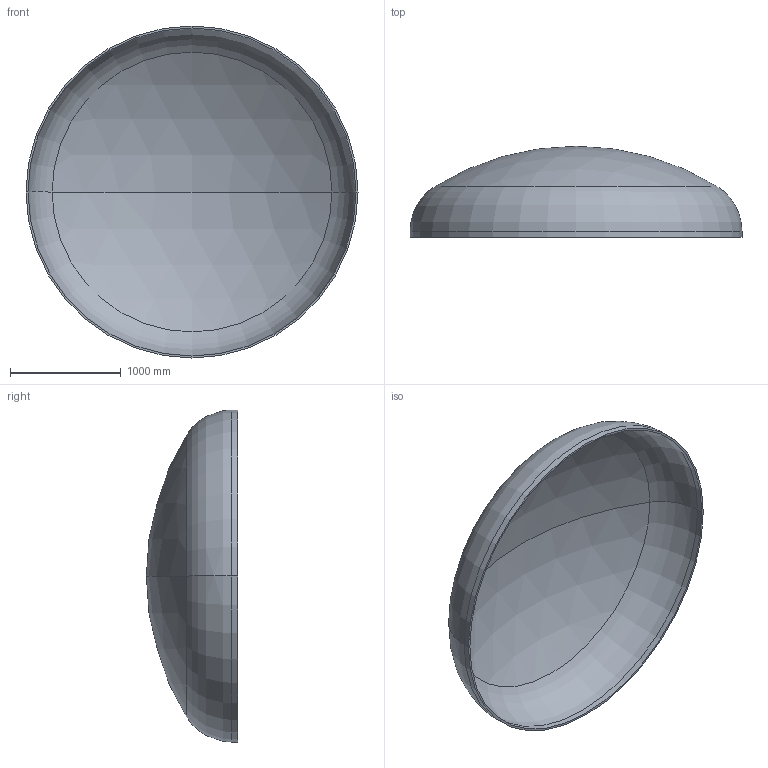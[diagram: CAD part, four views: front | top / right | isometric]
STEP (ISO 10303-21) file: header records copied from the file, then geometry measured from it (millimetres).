
FILE_DESCRIPTION (( 'STEP AP203' ), '1' );
FILE_NAME ('DIN 28013 Korbbogenform_-_Boden DIN 28013 - 3000 x 55 - I - s=18.step', '2016-07-01T17:33:01', ( '' ), ( '' ), 'SwSTEP 2.0', 'SolidWorks 2013', '' );
FILE_SCHEMA (( 'CONFIG_CONTROL_DESIGN' ));
Length unit declared in the file: millimetre
Products named in the file (1): DIN 28013 Korbbogenform_-_Boden DIN 28013 - 3000 x 55 - I - s=18
Bounding box: 3000 x 824.03 x 3000 mm (x, y, z)
Volume: 183956468 mm3; surface area: 20608906.3 mm2
Topology: 1 solids, 1 shells, 13 faces, 24 edges, 14 vertices
Faces by surface type: torus 4, cylinder 4, sphere 4, plane 1
Entity records: 407 total; most frequent: DIRECTION 72, CARTESIAN_POINT 52, ORIENTED_EDGE 48, AXIS2_PLACEMENT_3D 34, EDGE_CURVE 24, CIRCLE 20, EDGE_LOOP 14, VERTEX_POINT 14
